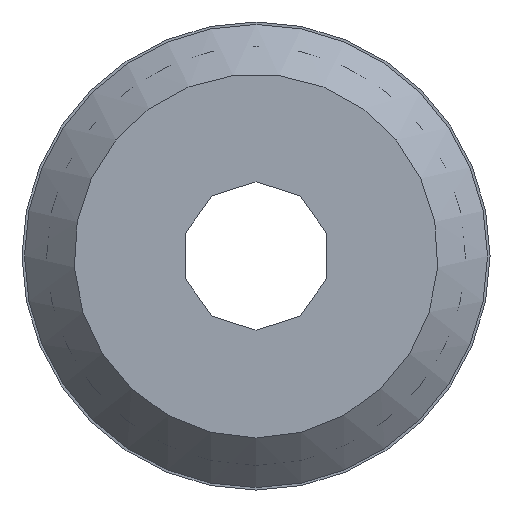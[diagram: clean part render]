
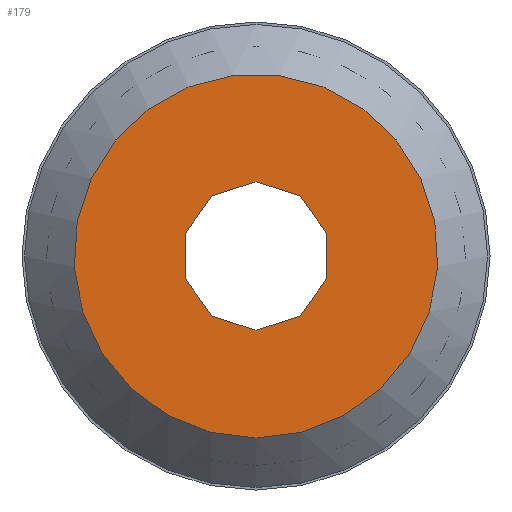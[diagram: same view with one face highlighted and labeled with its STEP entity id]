
A CAD part, front view. The second image highlights one B-rep face of the part: STEP entity #179.
In plain terms, the highlighted planar face has unit normal (0, -1, 0).
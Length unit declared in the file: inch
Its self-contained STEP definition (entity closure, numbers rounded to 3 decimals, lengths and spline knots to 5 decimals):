
#16=FACE_BOUND('',#41,.T.);
#20=PLANE('',#208);
#30=FACE_OUTER_BOUND('',#40,.T.);
#40=EDGE_LOOP('',(#137));
#41=EDGE_LOOP('',(#138,#139));
#62=CIRCLE('',#202,0.0735);
#67=CIRCLE('',#209,0.03);
#68=CIRCLE('',#210,0.03);
#82=VERTEX_POINT('',#300);
#87=VERTEX_POINT('',#314);
#88=VERTEX_POINT('',#315);
#101=EDGE_CURVE('',#82,#82,#62,.T.);
#108=EDGE_CURVE('',#87,#88,#67,.T.);
#109=EDGE_CURVE('',#88,#87,#68,.T.);
#137=ORIENTED_EDGE('',*,*,#101,.F.);
#138=ORIENTED_EDGE('',*,*,#108,.F.);
#139=ORIENTED_EDGE('',*,*,#109,.F.);
#179=ADVANCED_FACE('',(#30,#16),#20,.T.);
#202=AXIS2_PLACEMENT_3D('',#301,#235,#236);
#208=AXIS2_PLACEMENT_3D('',#313,#249,#250);
#209=AXIS2_PLACEMENT_3D('',#316,#251,#252);
#210=AXIS2_PLACEMENT_3D('',#317,#253,#254);
#235=DIRECTION('center_axis',(0.,1.,0.));
#236=DIRECTION('ref_axis',(0.,0.,1.));
#249=DIRECTION('center_axis',(0.,-1.,0.));
#250=DIRECTION('ref_axis',(0.,0.,-1.));
#251=DIRECTION('center_axis',(0.,-1.,0.));
#252=DIRECTION('ref_axis',(1.,0.,0.));
#253=DIRECTION('center_axis',(0.,-1.,0.));
#254=DIRECTION('ref_axis',(1.,0.,0.));
#300=CARTESIAN_POINT('',(0.,0.,-0.0735));
#301=CARTESIAN_POINT('Origin',(0.,0.,0.));
#313=CARTESIAN_POINT('Origin',(0.,0.,-0.03));
#314=CARTESIAN_POINT('',(0.,0.,-0.03));
#315=CARTESIAN_POINT('',(0.,0.,0.03));
#316=CARTESIAN_POINT('Origin',(0.,0.,0.));
#317=CARTESIAN_POINT('Origin',(0.,0.,0.));
